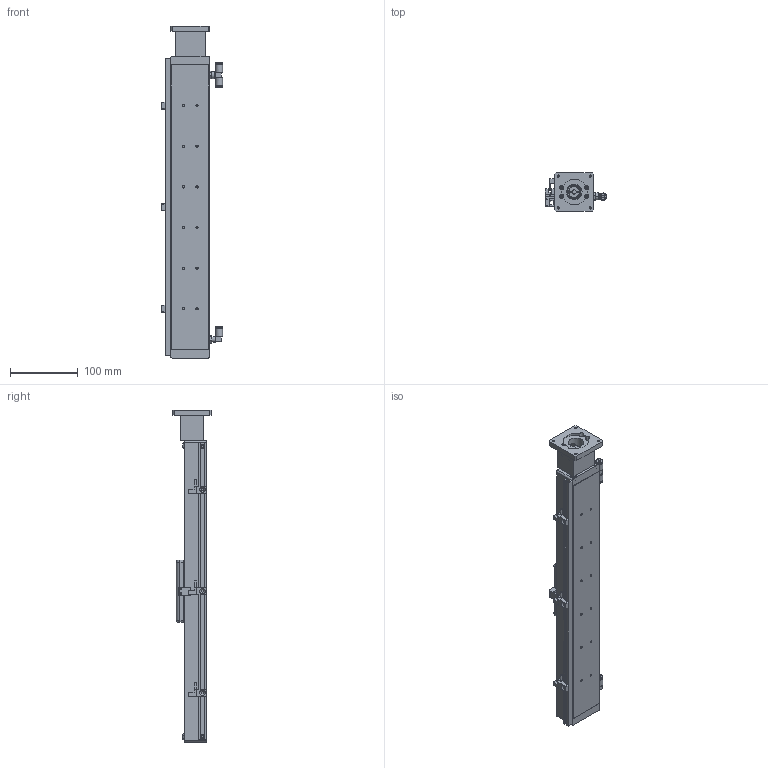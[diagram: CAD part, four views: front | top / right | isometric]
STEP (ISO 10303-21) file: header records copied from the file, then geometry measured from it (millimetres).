
FILE_DESCRIPTION((''),'2;1');
FILE_NAME('E:\catalogue and flyer\actuator catalogue 2015\dwg fr wg\UIA058CR7DC\UIA058CR7DC change cover strip 09May16\UIA058CR7DC-stp file 09May16\UIA058CR7DC-300-R0803-M23-P13-C10.stp','2016-05-09T14:18:57',('h029'),(''),'Autodesk Inventor 11','Autodesk Inventor 11','');
FILE_SCHEMA(('AUTOMOTIVE_DESIGN { 1 0 10303 214 1 1 1 1 }'));
Length unit declared in the file: millimetre
Products named in the file (14): UIA058CR7DC-300; UIA058CR7DC-body; GWL4-M5; GWT4-M5; Sensor Rail; Sensor Bracket; PM-L24; 19-100 0110 M23 Motor House; carriage-new; 19-100 0071 sensor flag; SOH-16C; SOH-16C-3; SOH-16C-2; SOH-16C-1
Assembly tree (17 placements, depth 3):
  UIA058CR7DC-300
    UIA058CR7DC-body
    GWL4-M5
    GWT4-M5
    Sensor Rail
    Sensor Bracket  x3
    PM-L24  x3
    19-100 0110 M23 Motor House
    carriage-new
    19-100 0071 sensor flag
    SOH-16C
      SOH-16C-3
      SOH-16C-2
      SOH-16C-1
Bounding box: 90.1 x 57 x 490 mm (x, y, z)
Volume: 994199.5 mm3; surface area: 158860.9 mm2
Topology: 16 solids, 16 shells, 693 faces, 1742 edges, 1132 vertices
Faces by surface type: plane 399, cylinder 139, bspline 137, cone 10, sphere 8
Full cylindrical faces by diameter (mm): 2.459 x4, 2.5 x5, 4 x2, 5 x5, 6 x4, 6.35 x1, 8.6 x2, 9 x2, 16 x3, 23 x1
Entity records: 18813 total; most frequent: CARTESIAN_POINT 4943, DIRECTION 2774, ORIENTED_EDGE 2644, EDGE_CURVE 1322, AXIS2_PLACEMENT_3D 965, VERTEX_POINT 909, VECTOR 844, LINE 844
